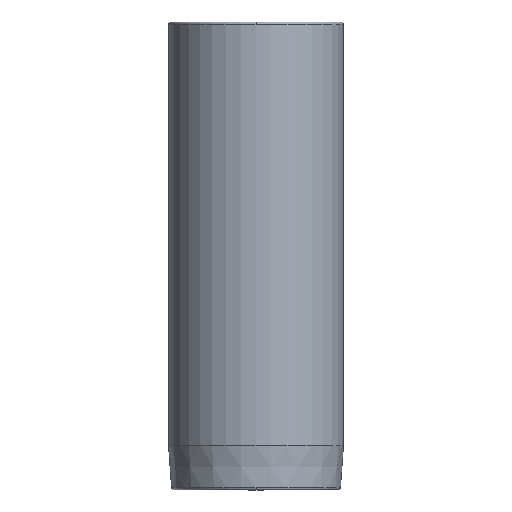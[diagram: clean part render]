
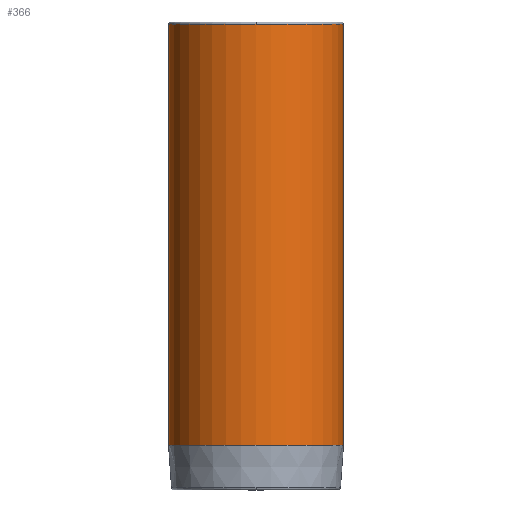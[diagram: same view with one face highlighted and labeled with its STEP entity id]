
A CAD part, front view. The second image highlights one B-rep face of the part: STEP entity #366.
In plain terms, the highlighted cylindrical face has radius 19.625 mm (diameter 39.25 mm), a partial arc.
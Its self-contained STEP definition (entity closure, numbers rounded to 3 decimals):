
#271=CARTESIAN_POINT('',(0.0,-19.625,54.5));
#272=VERTEX_POINT('',#271);
#298=CARTESIAN_POINT('',(-19.625,0.,54.5));
#299=VERTEX_POINT('',#298);
#307=CARTESIAN_POINT('',(0.0,0.,54.5));
#308=DIRECTION('',(0.0,0.0,1.0));
#309=DIRECTION('',(1.0,0.0,0.0));
#310=AXIS2_PLACEMENT_3D('',#307,#308,#309);
#311=CIRCLE('',#310,19.625);
#312=EDGE_CURVE('',#299,#272,#311,.T.);
#317=CARTESIAN_POINT('',(0.0,0.,7.267));
#318=DIRECTION('',(0.0,0.,1.0));
#319=DIRECTION('',(1.0,0.0,0.0));
#320=AXIS2_PLACEMENT_3D('',#317,#318,#319);
#321=CYLINDRICAL_SURFACE('',#320,19.625);
#322=CARTESIAN_POINT('',(19.625,0.,54.5));
#323=VERTEX_POINT('',#322);
#324=CARTESIAN_POINT('',(19.625,0.,-39.965));
#325=VERTEX_POINT('',#324);
#326=CARTESIAN_POINT('',(19.625,0.,54.5));
#327=DIRECTION('',(0.0,0.0,-1.0));
#328=VECTOR('',#327,94.465);
#329=LINE('',#326,#328);
#330=EDGE_CURVE('',#323,#325,#329,.T.);
#331=ORIENTED_EDGE('',*,*,#330,.F.);
#332=CARTESIAN_POINT('',(0.0,0.,54.5));
#333=DIRECTION('',(0.0,0.0,1.0));
#334=DIRECTION('',(1.0,0.0,0.0));
#335=AXIS2_PLACEMENT_3D('',#332,#333,#334);
#336=CIRCLE('',#335,19.625);
#337=EDGE_CURVE('',#272,#323,#336,.T.);
#338=ORIENTED_EDGE('',*,*,#337,.F.);
#339=ORIENTED_EDGE('',*,*,#312,.F.);
#340=CARTESIAN_POINT('',(-19.625,0.,-39.965));
#341=VERTEX_POINT('',#340);
#342=CARTESIAN_POINT('',(-19.625,0.,54.5));
#343=DIRECTION('',(0.0,0.0,-1.0));
#344=VECTOR('',#343,94.465);
#345=LINE('',#342,#344);
#346=EDGE_CURVE('',#299,#341,#345,.T.);
#347=ORIENTED_EDGE('',*,*,#346,.T.);
#348=CARTESIAN_POINT('',(0.0,-19.625,-39.965));
#349=VERTEX_POINT('',#348);
#350=CARTESIAN_POINT('',(0.0,0.,-39.965));
#351=DIRECTION('',(0.0,0.0,1.0));
#352=DIRECTION('',(1.0,0.0,0.0));
#353=AXIS2_PLACEMENT_3D('',#350,#351,#352);
#354=CIRCLE('',#353,19.625);
#355=EDGE_CURVE('',#341,#349,#354,.T.);
#356=ORIENTED_EDGE('',*,*,#355,.T.);
#357=CARTESIAN_POINT('',(0.0,0.,-39.965));
#358=DIRECTION('',(0.0,0.0,1.0));
#359=DIRECTION('',(1.0,0.0,0.0));
#360=AXIS2_PLACEMENT_3D('',#357,#358,#359);
#361=CIRCLE('',#360,19.625);
#362=EDGE_CURVE('',#349,#325,#361,.T.);
#363=ORIENTED_EDGE('',*,*,#362,.T.);
#364=EDGE_LOOP('',(#331,#338,#339,#347,#356,#363));
#365=FACE_OUTER_BOUND('',#364,.T.);
#366=ADVANCED_FACE('',(#365),#321,.T.);
